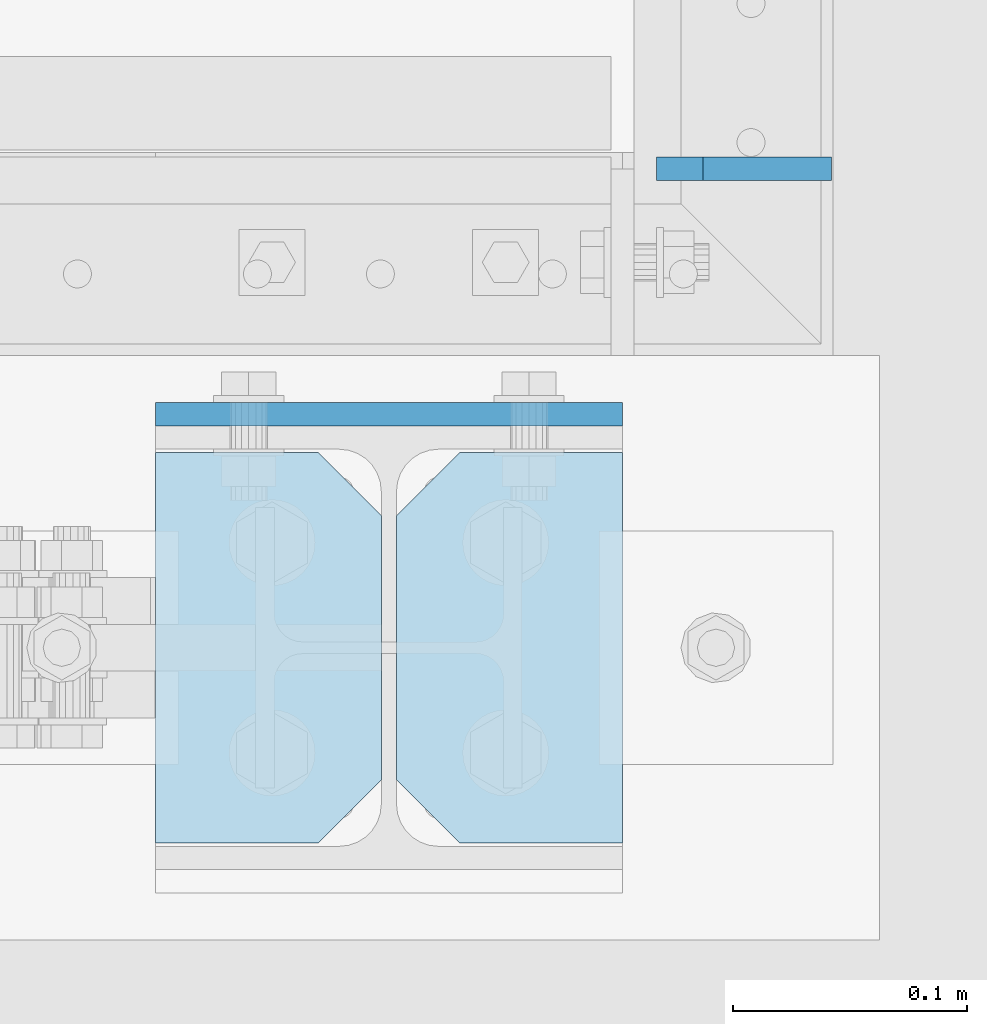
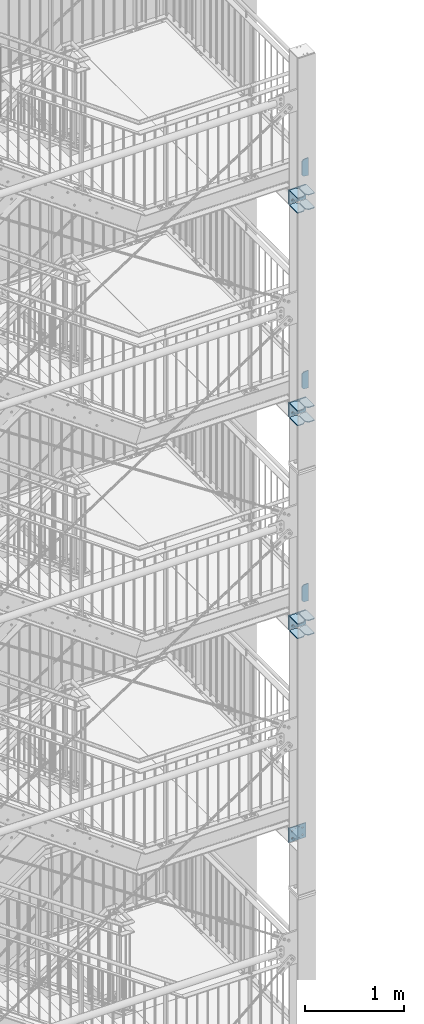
# One storey, part 197 of 825: 19 plates, 62 openings.
"""IFC2X3 building model written with IfcOpenShell, lengths in millimetres."""

import ifcopenshell
import ifcopenshell.guid

model = None  # the IFC model being written
_history = None  # IfcOwnerHistory: only IFC2X3 demands one
_inside = {}  # id of a spatial element -> (the spatial element, [elements in it])
_under = {}  # id of a project, library or spatial element -> (it, [spatial elements below it])
_declared = {}  # id of a project -> (the project, [libraries it declares])
_typed = {}  # id of a type object -> (the type object, [elements of that type])
_made_of = {}  # id of a material, layer set ... -> (it, [elements and type objects made of it])


def new_model(schema):
    """Start an empty IFC model of exactly this schema.

    Asked for "IFC4X3", IfcOpenShell would pick the latest addendum, in which some entities
    have other attributes; the version numbers below select the first issue.
    IFC2X3 requires an IfcOwnerHistory on every rooted entity: one is made here for all.
    """
    global model, _history
    if schema == "IFC4X3":
        model = ifcopenshell.file(schema_version=(4, 3, 0, 0))
    else:
        model = ifcopenshell.file(schema=schema)
    _inside.clear()
    _under.clear()
    _declared.clear()
    _typed.clear()
    _made_of.clear()
    _history = None
    if model.schema == "IFC2X3":
        org = make("IfcOrganization", Name="unknown")
        user = make(
            "IfcPersonAndOrganization",
            ThePerson=make("IfcPerson", FamilyName="unknown"),
            TheOrganization=org,
        )
        app = make(
            "IfcApplication",
            ApplicationDeveloper=org,
            Version="unknown",
            ApplicationFullName="unknown",
            ApplicationIdentifier="unknown",
        )
        _history = make(
            "IfcOwnerHistory",
            OwningUser=user,
            OwningApplication=app,
            ChangeAction="ADDED",
            CreationDate=0,
        )
    return model


def make(cls, **values):
    """One entity of the class cls with the attributes given. An attribute that is None is left unset."""
    return model.create_entity(
        cls, **{name: value for name, value in values.items() if value is not None}
    )


def entity(cls, *values):
    """Any entity or typed value of the class cls, its attributes in the order of the schema. None: left unset."""
    e = model.create_entity(cls)
    for i, value in enumerate(values):
        if value is not None:
            e[i] = value
    return e


def rooted(cls, **values):
    """An entity with a GlobalId (a new one), such as an element, a storey or a relation."""
    return make(cls, GlobalId=ifcopenshell.guid.new(), OwnerHistory=_history, **values)


def si_unit(unit_type, name, prefix=None):
    """IfcSIUnit, for example si_unit("LENGTHUNIT", "METRE", prefix="MILLI")."""
    return make("IfcSIUnit", UnitType=unit_type, Prefix=prefix, Name=name)


def converted_unit(unit_type, name, factor, base, dimensions=None, offset=None):
    """IfcConversionBasedUnit, such as the inch: factor (a typed value) times the base unit."""
    return make(
        "IfcConversionBasedUnit"
        if offset is None
        else "IfcConversionBasedUnitWithOffset",
        ConversionOffset=offset,
        Dimensions=None
        if dimensions is None
        else entity("IfcDimensionalExponents", *dimensions),
        UnitType=unit_type,
        Name=name,
        ConversionFactor=make(
            "IfcMeasureWithUnit", ValueComponent=factor, UnitComponent=base
        ),
    )


def assignment(units):
    """IfcUnitAssignment: the units of a project."""
    return None if units is None else make("IfcUnitAssignment", Units=units)


def point(xyz):
    """IfcCartesianPoint."""
    return None if xyz is None else make("IfcCartesianPoint", Coordinates=xyz)


def direction(xyz):
    """IfcDirection."""
    return None if xyz is None else make("IfcDirection", DirectionRatios=xyz)


def frame(location, z_axis=None, x_axis=None):
    """IfcAxis2Placement3D, a coordinate frame: its origin and axes. An axis left out is left unset."""
    return make(
        "IfcAxis2Placement3D",
        Location=point(location),
        Axis=direction(z_axis),
        RefDirection=direction(x_axis),
    )


def frame_2d(location, x_axis=None):
    """IfcAxis2Placement2D, a coordinate frame in the plane: its origin and x axis."""
    return make(
        "IfcAxis2Placement2D", Location=point(location), RefDirection=direction(x_axis)
    )


def origin():
    """The frame at (0, 0, 0) with its axes left unset."""
    return frame((0.0, 0.0, 0.0))


def origin_with_axes():
    """The frame at (0, 0, 0) with the z axis (0, 0, 1) and the x axis (1, 0, 0) written out."""
    return frame((0.0, 0.0, 0.0), z_axis=(0.0, 0.0, 1.0), x_axis=(1.0, 0.0, 0.0))


def origin_2d_with_axis():
    """The frame at (0, 0) in the plane with the x axis (1, 0) written out."""
    return frame_2d((0.0, 0.0), x_axis=(1.0, 0.0))


def place(relative_to, where):
    """IfcLocalPlacement: puts the frame where relative to a parent placement (None: the world)."""
    return make(
        "IfcLocalPlacement", PlacementRelTo=relative_to, RelativePlacement=where
    )


def context(
    kind, dimensions, precision=None, world=None, true_north=None, identifier=None
):
    """IfcGeometricRepresentationContext, for example the 3D "Model" context."""
    return make(
        "IfcGeometricRepresentationContext",
        ContextIdentifier=identifier,
        ContextType=kind,
        CoordinateSpaceDimension=dimensions,
        Precision=precision,
        WorldCoordinateSystem=world,
        TrueNorth=true_north,
    )


def project(units=None, contexts=None):
    """IfcProject with its units and contexts."""
    return rooted(
        "IfcProject",
        Name="project",
        RepresentationContexts=contexts,
        UnitsInContext=assignment(units),
    )


def spatial(cls, under=None, at=None, **own):
    """A site, building, storey or space (cls), placed at a placement, below another one or the project."""
    s = rooted(cls, ObjectPlacement=at, **own)
    if under is not None:
        _under.setdefault(under.id(), (under, []))[1].append(s)
    return s


def polyline(points):
    """IfcPolyline through the points."""
    return make("IfcPolyline", Points=[point(p) for p in points])


def profile(cls, at=None, kind="AREA", **sizes):
    """A parametric profile (cls). Its sizes go by their IFC names, for example OverallWidth=200.0."""
    return make(cls, ProfileType=kind, Position=at, **sizes)


def circle(**sizes):
    """IfcCircleProfileDef."""
    return profile("IfcCircleProfileDef", **sizes)


def outline(outer, holes=None, kind="AREA"):
    """IfcArbitraryClosedProfileDef: a profile drawn as a closed curve; with holes, ...WithVoids."""
    if holes is None:
        return make("IfcArbitraryClosedProfileDef", ProfileType=kind, OuterCurve=outer)
    return make(
        "IfcArbitraryProfileDefWithVoids",
        ProfileType=kind,
        OuterCurve=outer,
        InnerCurves=holes,
    )


def extrude(swept, where, along, depth):
    """IfcExtrudedAreaSolid: the profile swept, set in the frame where, extruded along a direction by depth."""
    return make(
        "IfcExtrudedAreaSolid",
        SweptArea=swept,
        Position=where,
        ExtrudedDirection=direction(along),
        Depth=depth,
    )


def shape(context_of_items, identifier, shape_type, items):
    """IfcShapeRepresentation: the items that make up one representation, for example the "Body"."""
    return make(
        "IfcShapeRepresentation",
        ContextOfItems=context_of_items,
        RepresentationIdentifier=identifier,
        RepresentationType=shape_type,
        Items=items,
    )


def material(Name=None, Category=None):
    """IfcMaterial."""
    return make("IfcMaterial", Name=Name, Category=Category)


def layer(
    of_material, thickness, ventilated=None, Name=None, Category=None, Priority=None
):
    """IfcMaterialLayer: one layer of a wall or slab, of a material (None: an air gap)."""
    return make(
        "IfcMaterialLayer",
        Material=of_material,
        LayerThickness=thickness,
        IsVentilated=ventilated,
        Name=Name,
        Category=Category,
        Priority=Priority,
    )


def layer_set(layers, Name=None):
    """IfcMaterialLayerSet."""
    return make("IfcMaterialLayerSet", MaterialLayers=layers, LayerSetName=Name)


def made_of(thing, what):
    """Note that an element or type object is made of a material, layer set ...; save() writes the relation."""
    if what is not None:
        _made_of.setdefault(what.id(), (what, []))[1].append(thing)
    return thing


def element(
    cls,
    number,
    at=None,
    inside=None,
    cuts=None,
    type_object=None,
    material=None,
    context=None,
    identifier="Body",
    shape_type=None,
    held_by="IfcProductDefinitionShape",
    body=None,
    shapes=None,
    **own,
):
    """One element of the class cls, such as IfcWall. Its Tag is "e" and its number.

    at: its placement. inside: the storey or other place that contains it. cuts: it is an
    opening in that element (IfcRelVoidsElement). A single representation is given by context,
    identifier, shape_type and body (its items); several are given by shapes. held_by: the class
    of the entity that holds the representations. save() writes the other relations.
    """
    e = rooted(cls, Tag="e%d" % number, ObjectPlacement=at, **own)
    if body is not None:
        shapes = [shape(context, identifier, shape_type, body)]
    if shapes is not None:
        e.Representation = make(held_by, Representations=shapes)
    if inside is not None:
        _inside.setdefault(inside.id(), (inside, []))[1].append(e)
    if cuts is not None:
        rooted(
            "IfcRelVoidsElement", RelatingBuildingElement=cuts, RelatedOpeningElement=e
        )
    if type_object is not None:
        _typed.setdefault(type_object.id(), (type_object, []))[1].append(e)
    return made_of(e, material)


def aggregate(whole, parts):
    """IfcRelAggregates: a whole, such as a stair, and the parts it consists of."""
    return rooted("IfcRelAggregates", RelatingObject=whole, RelatedObjects=parts)


def save(model, path):
    """Write the relations noted so far, then the file.

    IfcRelAggregates (storeys below a building ...), IfcRelContainedInSpatialStructure (elements
    in a storey), IfcRelDefinesByType, IfcRelAssociatesMaterial and IfcRelDeclares: one each for
    every whole, place, type object, material and project.
    """
    for whole, parts in _under.values():
        aggregate(whole, parts)
    for where, things in _inside.values():
        rooted(
            "IfcRelContainedInSpatialStructure",
            RelatedElements=things,
            RelatingStructure=where,
        )
    for kind, things in _typed.values():
        rooted("IfcRelDefinesByType", RelatedObjects=things, RelatingType=kind)
    for what, things in _made_of.values():
        rooted("IfcRelAssociatesMaterial", RelatedObjects=things, RelatingMaterial=what)
    for by, libraries in _declared.values():
        rooted("IfcRelDeclares", RelatingContext=by, RelatedDefinitions=libraries)
    model.write(path)


model = new_model("IFC2X3")

# Units and contexts
model_context = context("Model", 3, precision=1e-09, world=origin_with_axes())
ifc_project = project(units=[si_unit("LENGTHUNIT", "METRE", prefix="MILLI"), si_unit("AREAUNIT", "SQUARE_METRE"), si_unit("VOLUMEUNIT", "CUBIC_METRE"), converted_unit("PLANEANGLEUNIT", "DEGREE", entity("IfcPlaneAngleMeasure", 0.01745329), si_unit("PLANEANGLEUNIT", "RADIAN"), dimensions=[0, 0, 0, 0, 0, 0, 0])], contexts=[model_context])

# Site, building, storey
site_placement = place(None, origin_with_axes())
site = spatial("IfcSite", under=ifc_project, at=site_placement, Name="Cnopf'sche Kinderklinik", CompositionType="ELEMENT")
building_placement = place(site_placement, origin_with_axes())
building = spatial("IfcBuilding", under=site, at=building_placement, Name="Struktur 1", CompositionType="ELEMENT")
storey_placement = place(building_placement, origin_with_axes())
storey = spatial("IfcBuildingStorey", under=building, at=storey_placement, Name="Default Storey", CompositionType="ELEMENT", Elevation=0.0)

# Plate, openings
ifc_material = material(Name="S235JR")
ifc_layer = layer(ifc_material, 10.0)
ifc_layer_set = layer_set([ifc_layer], Name="S235JR")
plate_1_placement = place(None, frame((8866.713402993, 4471.736971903, 16189.0000003), z_axis=(0.0, -1.0, 0.0), x_axis=(0.0, 0.0, -1.0)))
plate_1 = element("IfcPlate", 1, at=plate_1_placement, inside=storey, material=ifc_layer_set, Name="Endplate", ObjectType="Endplate", context=model_context, shape_type="SweptSolid", body=[
    extrude(outline(polyline([(-90.0, -100.0), (90.0, -100.0), (90.0, 100.0), (-90.0, 100.0), (-90.0, -100.0)])), origin_with_axes(), (0.0, 0.0, 1.0), 10.0),
])
opening_1_placement = place(plate_1_placement, frame((-67.0, -21.25, 10.5), z_axis=(0.0, 0.0, -1.0), x_axis=(1.0, 0.0, 0.0)))
element("IfcOpeningElement", 2, at=opening_1_placement, cuts=plate_1, ObjectType="Opening", context=model_context, shape_type="SweptSolid", body=[
    extrude(circle(Radius=6.001, at=origin_2d_with_axis()), origin(), (0.0, 0.0, 1.0), 11.0),
])
opening_2_placement = place(plate_1_placement, frame((67.0, -21.25, 10.5), z_axis=(0.0, 0.0, -1.0), x_axis=(1.0, 0.0, 0.0)))
element("IfcOpeningElement", 3, at=opening_2_placement, cuts=plate_1, ObjectType="Opening", context=model_context, shape_type="SweptSolid", body=[
    extrude(circle(Radius=6.001, at=origin_2d_with_axis()), origin(), (0.0, 0.0, 1.0), 11.0),
])
opening_3_placement = place(plate_1_placement, frame((67.0, 21.25, 10.5), z_axis=(0.0, 0.0, -1.0), x_axis=(1.0, 0.0, 0.0)))
element("IfcOpeningElement", 4, at=opening_3_placement, cuts=plate_1, ObjectType="Opening", context=model_context, shape_type="SweptSolid", body=[
    extrude(circle(Radius=6.001, at=origin_2d_with_axis()), origin(), (0.0, 0.0, 1.0), 11.0),
])
opening_4_placement = place(plate_1_placement, frame((-67.0, 21.25, 10.5), z_axis=(0.0, 0.0, -1.0), x_axis=(1.0, 0.0, 0.0)))
element("IfcOpeningElement", 5, at=opening_4_placement, cuts=plate_1, ObjectType="Opening", context=model_context, shape_type="SweptSolid", body=[
    extrude(circle(Radius=6.001, at=origin_2d_with_axis()), origin(), (0.0, 0.0, 1.0), 11.0),
])
opening_5_placement = place(plate_1_placement, frame((-45.0, 60.0, 10.5), z_axis=(0.0, 0.0, -1.0), x_axis=(0.0, 1.0, 0.0)))
element("IfcOpeningElement", 6, at=opening_5_placement, cuts=plate_1, ObjectType="Opening", context=model_context, shape_type="SweptSolid", body=[
    extrude(circle(Radius=9.001, at=origin_2d_with_axis()), origin(), (0.0, 0.0, 1.0), 11.0),
])
opening_6_placement = place(plate_1_placement, frame((-45.0, -60.0, 10.5), z_axis=(0.0, 0.0, -1.0), x_axis=(0.0, -1.0, 0.0)))
element("IfcOpeningElement", 7, at=opening_6_placement, cuts=plate_1, ObjectType="Opening", context=model_context, shape_type="SweptSolid", body=[
    extrude(circle(Radius=9.001, at=origin_2d_with_axis()), origin(), (0.0, 0.0, 1.0), 11.0),
])
opening_7_placement = place(plate_1_placement, frame((45.0, 60.0, 10.5), z_axis=(0.0, 0.0, -1.0), x_axis=(0.0, 1.0, 0.0)))
element("IfcOpeningElement", 8, at=opening_7_placement, cuts=plate_1, ObjectType="Opening", context=model_context, shape_type="SweptSolid", body=[
    extrude(circle(Radius=9.001, at=origin_2d_with_axis()), origin(), (0.0, 0.0, 1.0), 11.0),
])
opening_8_placement = place(plate_1_placement, frame((45.0, -60.0, 10.5), z_axis=(0.0, 0.0, -1.0), x_axis=(0.0, -1.0, 0.0)))
element("IfcOpeningElement", 9, at=opening_8_placement, cuts=plate_1, ObjectType="Opening", context=model_context, shape_type="SweptSolid", body=[
    extrude(circle(Radius=9.001, at=origin_2d_with_axis()), origin(), (0.0, 0.0, 1.0), 11.0),
])

plate_2_placement = place(None, frame((8863.463402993, 4450.236971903, 16274.0000003), z_axis=(0.0, 0.0, 1.0), x_axis=(-1.0, 0.0, 0.0)))
plate_2 = element("IfcPlate", 10, at=plate_2_placement, inside=storey, material=ifc_layer_set, Name="Stiffener#1", ObjectType="Stiffener#1", context=model_context, shape_type="SweptSolid", body=[
    extrude(outline(polyline([(0.0, 0.0), (96.75, 0.0), (96.75, 167.0), (0.0, 167.0), (0.0, 0.0)])), origin_with_axes(), (0.0, 0.0, 1.0), 10.0),
])
opening_9_placement = place(plate_2_placement, frame((0.0, 0.0, -0.01), z_axis=(0.0, 0.0, 1.0), x_axis=(1.0, 0.0, 0.0)))
element("IfcOpeningElement", 11, at=opening_9_placement, cuts=plate_2, ObjectType="Opening", context=model_context, shape_type="SweptSolid", body=[
    extrude(outline(polyline([(0.0, 167.0), (0.0, 140.0), (27.0, 167.0), (0.0, 167.0)])), origin(), (0.0, 0.0, 1.0), 10.02),
])
opening_10_placement = place(plate_2_placement, frame((0.0, 0.0, -0.01), z_axis=(0.0, 0.0, 1.0), x_axis=(1.0, 0.0, 0.0)))
element("IfcOpeningElement", 12, at=opening_10_placement, cuts=plate_2, ObjectType="Opening", context=model_context, shape_type="SweptSolid", body=[
    extrude(outline(polyline([(0.0, 0.0), (27.0, 0.0), (0.0, 27.0), (0.0, 0.0)])), origin(), (0.0, 0.0, 1.0), 10.02),
])

plate_3_placement = place(None, frame((8966.713402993, 4450.236971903, 16274.0000003), z_axis=(0.0, 0.0, 1.0), x_axis=(-1.0, 0.0, 0.0)))
plate_3 = element("IfcPlate", 13, at=plate_3_placement, inside=storey, material=ifc_layer_set, Name="Stiffener#2", ObjectType="Stiffener#2", context=model_context, shape_type="SweptSolid", body=[
    extrude(outline(polyline([(0.0, 0.0), (96.75, 0.0), (96.75, 167.0), (0.0, 167.0), (0.0, 0.0)])), origin_with_axes(), (0.0, 0.0, 1.0), 10.0),
])
opening_11_placement = place(plate_3_placement, frame((0.0, 0.0, -0.01), z_axis=(0.0, 0.0, 1.0), x_axis=(1.0, 0.0, 0.0)))
element("IfcOpeningElement", 14, at=opening_11_placement, cuts=plate_3, ObjectType="Opening", context=model_context, shape_type="SweptSolid", body=[
    extrude(outline(polyline([(96.75, 167.0), (69.75, 167.0), (96.75, 140.0), (96.75, 167.0)])), origin(), (0.0, 0.0, 1.0), 10.02),
])
opening_12_placement = place(plate_3_placement, frame((0.0, 0.0, -0.01), z_axis=(0.0, 0.0, 1.0), x_axis=(1.0, 0.0, 0.0)))
element("IfcOpeningElement", 15, at=opening_12_placement, cuts=plate_3, ObjectType="Opening", context=model_context, shape_type="SweptSolid", body=[
    extrude(outline(polyline([(96.75, 0.0), (96.75, 27.0), (69.75, 0.0), (96.75, 0.0)])), origin(), (0.0, 0.0, 1.0), 10.02),
])

plate_4_placement = place(None, frame((8766.713402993, 4450.236971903, 16104.0000003), z_axis=(0.0, 0.0, -1.0), x_axis=(1.0, 0.0, 0.0)))
plate_4 = element("IfcPlate", 16, at=plate_4_placement, inside=storey, material=ifc_layer_set, Name="Stiffener#3", ObjectType="Stiffener#3", context=model_context, shape_type="SweptSolid", body=[
    extrude(outline(polyline([(0.0, 0.0), (96.75, 0.0), (96.75, 167.0), (0.0, 167.0), (0.0, 0.0)])), origin_with_axes(), (0.0, 0.0, 1.0), 10.0),
])
opening_13_placement = place(plate_4_placement, frame((0.0, 0.0, -0.01), z_axis=(0.0, 0.0, 1.0), x_axis=(1.0, 0.0, 0.0)))
element("IfcOpeningElement", 17, at=opening_13_placement, cuts=plate_4, ObjectType="Opening", context=model_context, shape_type="SweptSolid", body=[
    extrude(outline(polyline([(96.75, 167.0), (69.75, 167.0), (96.75, 140.0), (96.75, 167.0)])), origin(), (0.0, 0.0, 1.0), 10.02),
])
opening_14_placement = place(plate_4_placement, frame((0.0, 0.0, -0.01), z_axis=(0.0, 0.0, 1.0), x_axis=(1.0, 0.0, 0.0)))
element("IfcOpeningElement", 18, at=opening_14_placement, cuts=plate_4, ObjectType="Opening", context=model_context, shape_type="SweptSolid", body=[
    extrude(outline(polyline([(96.75, 0.0), (96.75, 27.0), (69.75, 0.0), (96.75, 0.0)])), origin(), (0.0, 0.0, 1.0), 10.02),
])

plate_5_placement = place(None, frame((8869.963402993, 4450.236971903, 16104.0000003), z_axis=(0.0, 0.0, -1.0), x_axis=(1.0, 0.0, 0.0)))
plate_5 = element("IfcPlate", 19, at=plate_5_placement, inside=storey, material=ifc_layer_set, Name="Stiffener#4", ObjectType="Stiffener#4", context=model_context, shape_type="SweptSolid", body=[
    extrude(outline(polyline([(0.0, 0.0), (96.75, 0.0), (96.75, 167.0), (0.0, 167.0), (0.0, 0.0)])), origin_with_axes(), (0.0, 0.0, 1.0), 10.0),
])
opening_15_placement = place(plate_5_placement, frame((0.0, 0.0, -0.01), z_axis=(0.0, 0.0, 1.0), x_axis=(1.0, 0.0, 0.0)))
element("IfcOpeningElement", 20, at=opening_15_placement, cuts=plate_5, ObjectType="Opening", context=model_context, shape_type="SweptSolid", body=[
    extrude(outline(polyline([(0.0, 167.0), (0.0, 140.0), (27.0, 167.0), (0.0, 167.0)])), origin(), (0.0, 0.0, 1.0), 10.02),
])
opening_16_placement = place(plate_5_placement, frame((0.0, 0.0, -0.01), z_axis=(0.0, 0.0, 1.0), x_axis=(1.0, 0.0, 0.0)))
element("IfcOpeningElement", 21, at=opening_16_placement, cuts=plate_5, ObjectType="Opening", context=model_context, shape_type="SweptSolid", body=[
    extrude(outline(polyline([(0.0, 0.0), (27.0, 0.0), (0.0, 27.0), (0.0, 0.0)])), origin(), (0.0, 0.0, 1.0), 10.02),
])

plate_6_placement = place(None, frame((8981.213402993, 4566.736971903, 16506.855162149), z_axis=(0.0, 1.0, 0.0), x_axis=(0.996815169, 0.0, 0.079746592)))
plate_6 = element("IfcPlate", 22, at=plate_6_placement, inside=storey, material=ifc_layer_set, Name="Stiffener#1", ObjectType="Stiffener#1", context=model_context, shape_type="SweptSolid", body=[
    extrude(outline(polyline([(0.0, 0.0), (75.239625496, 0.0), (57.877952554, 217.017159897), (-16.404697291, 205.05517107), (0.0, 0.0)])), origin_with_axes(), (0.0, 0.0, 1.0), 10.0),
])
opening_17_placement = place(plate_6_placement, frame((0.0, 0.0, -0.01), z_axis=(0.0, 0.0, 1.0), x_axis=(1.0, 0.0, 0.0)))
element("IfcOpeningElement", 23, at=opening_17_placement, cuts=plate_6, ObjectType="Opening", context=model_context, shape_type="SweptSolid", body=[
    extrude(outline(polyline([(-16.404697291, 205.05517107), (-14.809765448, 185.118867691), (3.34092195, 208.23487558), (-16.404697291, 205.05517107)])), origin(), (0.0, 0.0, 1.0), 10.02),
])
opening_18_placement = place(plate_6_placement, frame((0.0, 0.0, -0.01), z_axis=(0.0, 0.0, 1.0), x_axis=(1.0, 0.0, 0.0)))
element("IfcOpeningElement", 24, at=opening_18_placement, cuts=plate_6, ObjectType="Opening", context=model_context, shape_type="SweptSolid", body=[
    extrude(outline(polyline([(0.0, 0.0), (20.0, 0.0), (-1.594931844, 19.936303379), (0.0, 0.0)])), origin(), (0.0, 0.0, 1.0), 10.02),
])

plate_7_placement = place(None, frame((8866.713402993, 4471.736971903, 13561.5000001), z_axis=(0.0, -1.0, 0.0), x_axis=(0.0, 0.0, -1.0)))
plate_7 = element("IfcPlate", 25, at=plate_7_placement, inside=storey, material=ifc_layer_set, Name="Endplate", ObjectType="Endplate", context=model_context, shape_type="SweptSolid", body=[
    extrude(outline(polyline([(-90.0, -100.0), (90.0, -100.0), (90.0, 100.0), (-90.0, 100.0), (-90.0, -100.0)])), origin_with_axes(), (0.0, 0.0, 1.0), 10.0),
])
opening_19_placement = place(plate_7_placement, frame((-67.0, -21.25, 10.5), z_axis=(0.0, 0.0, -1.0), x_axis=(1.0, 0.0, 0.0)))
element("IfcOpeningElement", 26, at=opening_19_placement, cuts=plate_7, ObjectType="Opening", context=model_context, shape_type="SweptSolid", body=[
    extrude(circle(Radius=6.001, at=origin_2d_with_axis()), origin(), (0.0, 0.0, 1.0), 11.0),
])
opening_20_placement = place(plate_7_placement, frame((67.0, -21.25, 10.5), z_axis=(0.0, 0.0, -1.0), x_axis=(1.0, 0.0, 0.0)))
element("IfcOpeningElement", 27, at=opening_20_placement, cuts=plate_7, ObjectType="Opening", context=model_context, shape_type="SweptSolid", body=[
    extrude(circle(Radius=6.001, at=origin_2d_with_axis()), origin(), (0.0, 0.0, 1.0), 11.0),
])
opening_21_placement = place(plate_7_placement, frame((67.0, 21.25, 10.5), z_axis=(0.0, 0.0, -1.0), x_axis=(1.0, 0.0, 0.0)))
element("IfcOpeningElement", 28, at=opening_21_placement, cuts=plate_7, ObjectType="Opening", context=model_context, shape_type="SweptSolid", body=[
    extrude(circle(Radius=6.001, at=origin_2d_with_axis()), origin(), (0.0, 0.0, 1.0), 11.0),
])
opening_22_placement = place(plate_7_placement, frame((-67.0, 21.25, 10.5), z_axis=(0.0, 0.0, -1.0), x_axis=(1.0, 0.0, 0.0)))
element("IfcOpeningElement", 29, at=opening_22_placement, cuts=plate_7, ObjectType="Opening", context=model_context, shape_type="SweptSolid", body=[
    extrude(circle(Radius=6.001, at=origin_2d_with_axis()), origin(), (0.0, 0.0, 1.0), 11.0),
])
opening_23_placement = place(plate_7_placement, frame((45.0, -60.0, 10.5), z_axis=(0.0, 0.0, -1.0), x_axis=(0.0, -1.0, 0.0)))
element("IfcOpeningElement", 30, at=opening_23_placement, cuts=plate_7, ObjectType="Opening", context=model_context, shape_type="SweptSolid", body=[
    extrude(circle(Radius=9.001, at=origin_2d_with_axis()), origin(), (0.0, 0.0, 1.0), 11.0),
])
opening_24_placement = place(plate_7_placement, frame((45.0, 60.0, 10.5), z_axis=(0.0, 0.0, -1.0), x_axis=(0.0, 1.0, 0.0)))
element("IfcOpeningElement", 31, at=opening_24_placement, cuts=plate_7, ObjectType="Opening", context=model_context, shape_type="SweptSolid", body=[
    extrude(circle(Radius=9.001, at=origin_2d_with_axis()), origin(), (0.0, 0.0, 1.0), 11.0),
])
opening_25_placement = place(plate_7_placement, frame((-45.0, -60.0, 10.5), z_axis=(0.0, 0.0, -1.0), x_axis=(0.0, -1.0, 0.0)))
element("IfcOpeningElement", 32, at=opening_25_placement, cuts=plate_7, ObjectType="Opening", context=model_context, shape_type="SweptSolid", body=[
    extrude(circle(Radius=9.001, at=origin_2d_with_axis()), origin(), (0.0, 0.0, 1.0), 11.0),
])
opening_26_placement = place(plate_7_placement, frame((-45.0, 60.0, 10.5), z_axis=(0.0, 0.0, -1.0), x_axis=(0.0, 1.0, 0.0)))
element("IfcOpeningElement", 33, at=opening_26_placement, cuts=plate_7, ObjectType="Opening", context=model_context, shape_type="SweptSolid", body=[
    extrude(circle(Radius=9.001, at=origin_2d_with_axis()), origin(), (0.0, 0.0, 1.0), 11.0),
])

plate_8_placement = place(None, frame((8863.463402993, 4450.236971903, 13646.5000001), z_axis=(0.0, 0.0, 1.0), x_axis=(-1.0, 0.0, 0.0)))
plate_8 = element("IfcPlate", 34, at=plate_8_placement, inside=storey, material=ifc_layer_set, Name="Stiffener#1", ObjectType="Stiffener#1", context=model_context, shape_type="SweptSolid", body=[
    extrude(outline(polyline([(0.0, 0.0), (96.75, 0.0), (96.75, 167.0), (0.0, 167.0), (0.0, 0.0)])), origin_with_axes(), (0.0, 0.0, 1.0), 10.0),
])
opening_27_placement = place(plate_8_placement, frame((0.0, 0.0, -0.01), z_axis=(0.0, 0.0, 1.0), x_axis=(1.0, 0.0, 0.0)))
element("IfcOpeningElement", 35, at=opening_27_placement, cuts=plate_8, ObjectType="Opening", context=model_context, shape_type="SweptSolid", body=[
    extrude(outline(polyline([(0.0, 167.0), (0.0, 140.0), (27.0, 167.0), (0.0, 167.0)])), origin(), (0.0, 0.0, 1.0), 10.02),
])
opening_28_placement = place(plate_8_placement, frame((0.0, 0.0, -0.01), z_axis=(0.0, 0.0, 1.0), x_axis=(1.0, 0.0, 0.0)))
element("IfcOpeningElement", 36, at=opening_28_placement, cuts=plate_8, ObjectType="Opening", context=model_context, shape_type="SweptSolid", body=[
    extrude(outline(polyline([(0.0, 0.0), (27.0, 0.0), (0.0, 27.0), (0.0, 0.0)])), origin(), (0.0, 0.0, 1.0), 10.02),
])

plate_9_placement = place(None, frame((8966.713402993, 4450.236971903, 13646.5000001), z_axis=(0.0, 0.0, 1.0), x_axis=(-1.0, 0.0, 0.0)))
plate_9 = element("IfcPlate", 37, at=plate_9_placement, inside=storey, material=ifc_layer_set, Name="Stiffener#2", ObjectType="Stiffener#2", context=model_context, shape_type="SweptSolid", body=[
    extrude(outline(polyline([(0.0, 0.0), (96.75, 0.0), (96.75, 167.0), (0.0, 167.0), (0.0, 0.0)])), origin_with_axes(), (0.0, 0.0, 1.0), 10.0),
])
opening_29_placement = place(plate_9_placement, frame((0.0, 0.0, -0.01), z_axis=(0.0, 0.0, 1.0), x_axis=(1.0, 0.0, 0.0)))
element("IfcOpeningElement", 38, at=opening_29_placement, cuts=plate_9, ObjectType="Opening", context=model_context, shape_type="SweptSolid", body=[
    extrude(outline(polyline([(96.75, 167.0), (69.75, 167.0), (96.75, 140.0), (96.75, 167.0)])), origin(), (0.0, 0.0, 1.0), 10.02),
])
opening_30_placement = place(plate_9_placement, frame((0.0, 0.0, -0.01), z_axis=(0.0, 0.0, 1.0), x_axis=(1.0, 0.0, 0.0)))
element("IfcOpeningElement", 39, at=opening_30_placement, cuts=plate_9, ObjectType="Opening", context=model_context, shape_type="SweptSolid", body=[
    extrude(outline(polyline([(96.75, 0.0), (96.75, 27.0), (69.75, 0.0), (96.75, 0.0)])), origin(), (0.0, 0.0, 1.0), 10.02),
])

plate_10_placement = place(None, frame((8766.713402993, 4450.236971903, 13476.5000001), z_axis=(0.0, 0.0, -1.0), x_axis=(1.0, 0.0, 0.0)))
plate_10 = element("IfcPlate", 40, at=plate_10_placement, inside=storey, material=ifc_layer_set, Name="Stiffener#3", ObjectType="Stiffener#3", context=model_context, shape_type="SweptSolid", body=[
    extrude(outline(polyline([(0.0, 0.0), (96.75, 0.0), (96.75, 167.0), (0.0, 167.0), (0.0, 0.0)])), origin_with_axes(), (0.0, 0.0, 1.0), 10.0),
])
opening_31_placement = place(plate_10_placement, frame((0.0, 0.0, -0.01), z_axis=(0.0, 0.0, 1.0), x_axis=(1.0, 0.0, 0.0)))
element("IfcOpeningElement", 41, at=opening_31_placement, cuts=plate_10, ObjectType="Opening", context=model_context, shape_type="SweptSolid", body=[
    extrude(outline(polyline([(96.75, 167.0), (69.75, 167.0), (96.75, 140.0), (96.75, 167.0)])), origin(), (0.0, 0.0, 1.0), 10.02),
])
opening_32_placement = place(plate_10_placement, frame((0.0, 0.0, -0.01), z_axis=(0.0, 0.0, 1.0), x_axis=(1.0, 0.0, 0.0)))
element("IfcOpeningElement", 42, at=opening_32_placement, cuts=plate_10, ObjectType="Opening", context=model_context, shape_type="SweptSolid", body=[
    extrude(outline(polyline([(96.75, 0.0), (96.75, 27.0), (69.75, 0.0), (96.75, 0.0)])), origin(), (0.0, 0.0, 1.0), 10.02),
])

plate_11_placement = place(None, frame((8869.963402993, 4450.236971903, 13476.5000001), z_axis=(0.0, 0.0, -1.0), x_axis=(1.0, 0.0, 0.0)))
plate_11 = element("IfcPlate", 43, at=plate_11_placement, inside=storey, material=ifc_layer_set, Name="Stiffener#4", ObjectType="Stiffener#4", context=model_context, shape_type="SweptSolid", body=[
    extrude(outline(polyline([(0.0, 0.0), (96.75, 0.0), (96.75, 167.0), (0.0, 167.0), (0.0, 0.0)])), origin_with_axes(), (0.0, 0.0, 1.0), 10.0),
])
opening_33_placement = place(plate_11_placement, frame((0.0, 0.0, -0.01), z_axis=(0.0, 0.0, 1.0), x_axis=(1.0, 0.0, 0.0)))
element("IfcOpeningElement", 44, at=opening_33_placement, cuts=plate_11, ObjectType="Opening", context=model_context, shape_type="SweptSolid", body=[
    extrude(outline(polyline([(0.0, 167.0), (0.0, 140.0), (27.0, 167.0), (0.0, 167.0)])), origin(), (0.0, 0.0, 1.0), 10.02),
])
opening_34_placement = place(plate_11_placement, frame((0.0, 0.0, -0.01), z_axis=(0.0, 0.0, 1.0), x_axis=(1.0, 0.0, 0.0)))
element("IfcOpeningElement", 45, at=opening_34_placement, cuts=plate_11, ObjectType="Opening", context=model_context, shape_type="SweptSolid", body=[
    extrude(outline(polyline([(0.0, 0.0), (27.0, 0.0), (0.0, 27.0), (0.0, 0.0)])), origin(), (0.0, 0.0, 1.0), 10.02),
])

plate_12_placement = place(None, frame((8981.213402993, 4566.736971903, 13879.355161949), z_axis=(0.0, 1.0, 0.0), x_axis=(0.996815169, 0.0, 0.079746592)))
plate_12 = element("IfcPlate", 46, at=plate_12_placement, inside=storey, material=ifc_layer_set, Name="Stiffener#1", ObjectType="Stiffener#1", context=model_context, shape_type="SweptSolid", body=[
    extrude(outline(polyline([(0.0, 0.0), (75.239625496, 0.0), (57.877952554, 217.017159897), (-16.404697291, 205.05517107), (0.0, 0.0)])), origin_with_axes(), (0.0, 0.0, 1.0), 10.0),
])
opening_35_placement = place(plate_12_placement, frame((0.0, 0.0, -0.01), z_axis=(0.0, 0.0, 1.0), x_axis=(1.0, 0.0, 0.0)))
element("IfcOpeningElement", 47, at=opening_35_placement, cuts=plate_12, ObjectType="Opening", context=model_context, shape_type="SweptSolid", body=[
    extrude(outline(polyline([(-16.404697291, 205.05517107), (-14.809765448, 185.118867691), (3.34092195, 208.23487558), (-16.404697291, 205.05517107)])), origin(), (0.0, 0.0, 1.0), 10.02),
])
opening_36_placement = place(plate_12_placement, frame((0.0, 0.0, -0.01), z_axis=(0.0, 0.0, 1.0), x_axis=(1.0, 0.0, 0.0)))
element("IfcOpeningElement", 48, at=opening_36_placement, cuts=plate_12, ObjectType="Opening", context=model_context, shape_type="SweptSolid", body=[
    extrude(outline(polyline([(0.0, 0.0), (20.0, 0.0), (-1.594931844, 19.936303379), (0.0, 0.0)])), origin(), (0.0, 0.0, 1.0), 10.02),
])

plate_13_placement = place(None, frame((8866.713402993, 4471.736971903, 10930.5000003), z_axis=(0.0, -1.0, 0.0), x_axis=(0.0, 0.0, -1.0)))
plate_13 = element("IfcPlate", 49, at=plate_13_placement, inside=storey, material=ifc_layer_set, Name="Endplate", ObjectType="Endplate", context=model_context, shape_type="SweptSolid", body=[
    extrude(outline(polyline([(-90.0, -100.0), (90.0, -100.0), (90.0, 100.0), (-90.0, 100.0), (-90.0, -100.0)])), origin_with_axes(), (0.0, 0.0, 1.0), 10.0),
])
opening_37_placement = place(plate_13_placement, frame((-67.0, -21.25, 10.5), z_axis=(0.0, 0.0, -1.0), x_axis=(1.0, 0.0, 0.0)))
element("IfcOpeningElement", 50, at=opening_37_placement, cuts=plate_13, ObjectType="Opening", context=model_context, shape_type="SweptSolid", body=[
    extrude(circle(Radius=6.001, at=origin_2d_with_axis()), origin(), (0.0, 0.0, 1.0), 11.0),
])
opening_38_placement = place(plate_13_placement, frame((67.0, -21.25, 10.5), z_axis=(0.0, 0.0, -1.0), x_axis=(1.0, 0.0, 0.0)))
element("IfcOpeningElement", 51, at=opening_38_placement, cuts=plate_13, ObjectType="Opening", context=model_context, shape_type="SweptSolid", body=[
    extrude(circle(Radius=6.001, at=origin_2d_with_axis()), origin(), (0.0, 0.0, 1.0), 11.0),
])
opening_39_placement = place(plate_13_placement, frame((67.0, 21.25, 10.5), z_axis=(0.0, 0.0, -1.0), x_axis=(1.0, 0.0, 0.0)))
element("IfcOpeningElement", 52, at=opening_39_placement, cuts=plate_13, ObjectType="Opening", context=model_context, shape_type="SweptSolid", body=[
    extrude(circle(Radius=6.001, at=origin_2d_with_axis()), origin(), (0.0, 0.0, 1.0), 11.0),
])
opening_40_placement = place(plate_13_placement, frame((-67.0, 21.25, 10.5), z_axis=(0.0, 0.0, -1.0), x_axis=(1.0, 0.0, 0.0)))
element("IfcOpeningElement", 53, at=opening_40_placement, cuts=plate_13, ObjectType="Opening", context=model_context, shape_type="SweptSolid", body=[
    extrude(circle(Radius=6.001, at=origin_2d_with_axis()), origin(), (0.0, 0.0, 1.0), 11.0),
])
opening_41_placement = place(plate_13_placement, frame((-45.0, 60.0, 10.5), z_axis=(0.0, 0.0, -1.0), x_axis=(0.0, 1.0, 0.0)))
element("IfcOpeningElement", 54, at=opening_41_placement, cuts=plate_13, ObjectType="Opening", context=model_context, shape_type="SweptSolid", body=[
    extrude(circle(Radius=9.001, at=origin_2d_with_axis()), origin(), (0.0, 0.0, 1.0), 11.0),
])
opening_42_placement = place(plate_13_placement, frame((45.0, -60.0, 10.5), z_axis=(0.0, 0.0, -1.0), x_axis=(0.0, -1.0, 0.0)))
element("IfcOpeningElement", 55, at=opening_42_placement, cuts=plate_13, ObjectType="Opening", context=model_context, shape_type="SweptSolid", body=[
    extrude(circle(Radius=9.001, at=origin_2d_with_axis()), origin(), (0.0, 0.0, 1.0), 11.0),
])
opening_43_placement = place(plate_13_placement, frame((45.0, 60.0, 10.5), z_axis=(0.0, 0.0, -1.0), x_axis=(0.0, 1.0, 0.0)))
element("IfcOpeningElement", 56, at=opening_43_placement, cuts=plate_13, ObjectType="Opening", context=model_context, shape_type="SweptSolid", body=[
    extrude(circle(Radius=9.001, at=origin_2d_with_axis()), origin(), (0.0, 0.0, 1.0), 11.0),
])
opening_44_placement = place(plate_13_placement, frame((-45.0, -60.0, 10.5), z_axis=(0.0, 0.0, -1.0), x_axis=(0.0, -1.0, 0.0)))
element("IfcOpeningElement", 57, at=opening_44_placement, cuts=plate_13, ObjectType="Opening", context=model_context, shape_type="SweptSolid", body=[
    extrude(circle(Radius=9.001, at=origin_2d_with_axis()), origin(), (0.0, 0.0, 1.0), 11.0),
])

plate_14_placement = place(None, frame((8863.463402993, 4450.236971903, 11015.5000003), z_axis=(0.0, 0.0, 1.0), x_axis=(-1.0, 0.0, 0.0)))
plate_14 = element("IfcPlate", 58, at=plate_14_placement, inside=storey, material=ifc_layer_set, Name="Stiffener#1", ObjectType="Stiffener#1", context=model_context, shape_type="SweptSolid", body=[
    extrude(outline(polyline([(0.0, 0.0), (96.75, 0.0), (96.75, 167.0), (0.0, 167.0), (0.0, 0.0)])), origin_with_axes(), (0.0, 0.0, 1.0), 10.0),
])
opening_45_placement = place(plate_14_placement, frame((0.0, 0.0, -0.01), z_axis=(0.0, 0.0, 1.0), x_axis=(1.0, 0.0, 0.0)))
element("IfcOpeningElement", 59, at=opening_45_placement, cuts=plate_14, ObjectType="Opening", context=model_context, shape_type="SweptSolid", body=[
    extrude(outline(polyline([(0.0, 167.0), (0.0, 140.0), (27.0, 167.0), (0.0, 167.0)])), origin(), (0.0, 0.0, 1.0), 10.02),
])
opening_46_placement = place(plate_14_placement, frame((0.0, 0.0, -0.01), z_axis=(0.0, 0.0, 1.0), x_axis=(1.0, 0.0, 0.0)))
element("IfcOpeningElement", 60, at=opening_46_placement, cuts=plate_14, ObjectType="Opening", context=model_context, shape_type="SweptSolid", body=[
    extrude(outline(polyline([(0.0, 0.0), (27.0, 0.0), (0.0, 27.0), (0.0, 0.0)])), origin(), (0.0, 0.0, 1.0), 10.02),
])

plate_15_placement = place(None, frame((8966.713402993, 4450.236971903, 11015.5000003), z_axis=(0.0, 0.0, 1.0), x_axis=(-1.0, 0.0, 0.0)))
plate_15 = element("IfcPlate", 61, at=plate_15_placement, inside=storey, material=ifc_layer_set, Name="Stiffener#2", ObjectType="Stiffener#2", context=model_context, shape_type="SweptSolid", body=[
    extrude(outline(polyline([(0.0, 0.0), (96.75, 0.0), (96.75, 167.0), (0.0, 167.0), (0.0, 0.0)])), origin_with_axes(), (0.0, 0.0, 1.0), 10.0),
])
opening_47_placement = place(plate_15_placement, frame((0.0, 0.0, -0.01), z_axis=(0.0, 0.0, 1.0), x_axis=(1.0, 0.0, 0.0)))
element("IfcOpeningElement", 62, at=opening_47_placement, cuts=plate_15, ObjectType="Opening", context=model_context, shape_type="SweptSolid", body=[
    extrude(outline(polyline([(96.75, 167.0), (69.75, 167.0), (96.75, 140.0), (96.75, 167.0)])), origin(), (0.0, 0.0, 1.0), 10.02),
])
opening_48_placement = place(plate_15_placement, frame((0.0, 0.0, -0.01), z_axis=(0.0, 0.0, 1.0), x_axis=(1.0, 0.0, 0.0)))
element("IfcOpeningElement", 63, at=opening_48_placement, cuts=plate_15, ObjectType="Opening", context=model_context, shape_type="SweptSolid", body=[
    extrude(outline(polyline([(96.75, 0.0), (96.75, 27.0), (69.75, 0.0), (96.75, 0.0)])), origin(), (0.0, 0.0, 1.0), 10.02),
])

plate_16_placement = place(None, frame((8766.713402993, 4450.236971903, 10845.5000003), z_axis=(0.0, 0.0, -1.0), x_axis=(1.0, 0.0, 0.0)))
plate_16 = element("IfcPlate", 64, at=plate_16_placement, inside=storey, material=ifc_layer_set, Name="Stiffener#3", ObjectType="Stiffener#3", context=model_context, shape_type="SweptSolid", body=[
    extrude(outline(polyline([(0.0, 0.0), (96.75, 0.0), (96.75, 167.0), (0.0, 167.0), (0.0, 0.0)])), origin_with_axes(), (0.0, 0.0, 1.0), 10.0),
])
opening_49_placement = place(plate_16_placement, frame((0.0, 0.0, -0.01), z_axis=(0.0, 0.0, 1.0), x_axis=(1.0, 0.0, 0.0)))
element("IfcOpeningElement", 65, at=opening_49_placement, cuts=plate_16, ObjectType="Opening", context=model_context, shape_type="SweptSolid", body=[
    extrude(outline(polyline([(96.75, 167.0), (69.75, 167.0), (96.75, 140.0), (96.75, 167.0)])), origin(), (0.0, 0.0, 1.0), 10.02),
])
opening_50_placement = place(plate_16_placement, frame((0.0, 0.0, -0.01), z_axis=(0.0, 0.0, 1.0), x_axis=(1.0, 0.0, 0.0)))
element("IfcOpeningElement", 66, at=opening_50_placement, cuts=plate_16, ObjectType="Opening", context=model_context, shape_type="SweptSolid", body=[
    extrude(outline(polyline([(96.75, 0.0), (96.75, 27.0), (69.75, 0.0), (96.75, 0.0)])), origin(), (0.0, 0.0, 1.0), 10.02),
])

plate_17_placement = place(None, frame((8869.963402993, 4450.236971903, 10845.5000003), z_axis=(0.0, 0.0, -1.0), x_axis=(1.0, 0.0, 0.0)))
plate_17 = element("IfcPlate", 67, at=plate_17_placement, inside=storey, material=ifc_layer_set, Name="Stiffener#4", ObjectType="Stiffener#4", context=model_context, shape_type="SweptSolid", body=[
    extrude(outline(polyline([(0.0, 0.0), (96.75, 0.0), (96.75, 167.0), (0.0, 167.0), (0.0, 0.0)])), origin_with_axes(), (0.0, 0.0, 1.0), 10.0),
])
opening_51_placement = place(plate_17_placement, frame((0.0, 0.0, -0.01), z_axis=(0.0, 0.0, 1.0), x_axis=(1.0, 0.0, 0.0)))
element("IfcOpeningElement", 68, at=opening_51_placement, cuts=plate_17, ObjectType="Opening", context=model_context, shape_type="SweptSolid", body=[
    extrude(outline(polyline([(0.0, 167.0), (0.0, 140.0), (27.0, 167.0), (0.0, 167.0)])), origin(), (0.0, 0.0, 1.0), 10.02),
])
opening_52_placement = place(plate_17_placement, frame((0.0, 0.0, -0.01), z_axis=(0.0, 0.0, 1.0), x_axis=(1.0, 0.0, 0.0)))
element("IfcOpeningElement", 69, at=opening_52_placement, cuts=plate_17, ObjectType="Opening", context=model_context, shape_type="SweptSolid", body=[
    extrude(outline(polyline([(0.0, 0.0), (27.0, 0.0), (0.0, 27.0), (0.0, 0.0)])), origin(), (0.0, 0.0, 1.0), 10.02),
])

plate_18_placement = place(None, frame((8981.213402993, 4566.736971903, 11248.355162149), z_axis=(0.0, 1.0, 0.0), x_axis=(0.996815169, 0.0, 0.079746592)))
plate_18 = element("IfcPlate", 70, at=plate_18_placement, inside=storey, material=ifc_layer_set, Name="Stiffener#1", ObjectType="Stiffener#1", context=model_context, shape_type="SweptSolid", body=[
    extrude(outline(polyline([(0.0, 0.0), (75.239625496, 0.0), (57.877952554, 217.017159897), (-16.404697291, 205.05517107), (0.0, 0.0)])), origin_with_axes(), (0.0, 0.0, 1.0), 10.0),
])
opening_53_placement = place(plate_18_placement, frame((0.0, 0.0, -0.01), z_axis=(0.0, 0.0, 1.0), x_axis=(1.0, 0.0, 0.0)))
element("IfcOpeningElement", 71, at=opening_53_placement, cuts=plate_18, ObjectType="Opening", context=model_context, shape_type="SweptSolid", body=[
    extrude(outline(polyline([(-16.404697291, 205.05517107), (-14.809765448, 185.118867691), (3.34092195, 208.23487558), (-16.404697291, 205.05517107)])), origin(), (0.0, 0.0, 1.0), 10.02),
])
opening_54_placement = place(plate_18_placement, frame((0.0, 0.0, -0.01), z_axis=(0.0, 0.0, 1.0), x_axis=(1.0, 0.0, 0.0)))
element("IfcOpeningElement", 72, at=opening_54_placement, cuts=plate_18, ObjectType="Opening", context=model_context, shape_type="SweptSolid", body=[
    extrude(outline(polyline([(0.0, 0.0), (20.0, 0.0), (-1.594931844, 19.936303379), (0.0, 0.0)])), origin(), (0.0, 0.0, 1.0), 10.02),
])

plate_19_placement = place(None, frame((8866.713402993, 4471.736971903, 8301.0), z_axis=(0.0, -1.0, 0.0), x_axis=(0.0, 0.0, -1.0)))
plate_19 = element("IfcPlate", 73, at=plate_19_placement, inside=storey, material=ifc_layer_set, Name="Endplate", ObjectType="Endplate", context=model_context, shape_type="SweptSolid", body=[
    extrude(outline(polyline([(-90.0, -100.0), (90.0, -100.0), (90.0, 100.0), (-90.0, 100.0), (-90.0, -100.0)])), origin_with_axes(), (0.0, 0.0, 1.0), 10.0),
])
opening_55_placement = place(plate_19_placement, frame((-67.0, -21.25, 10.5), z_axis=(0.0, 0.0, -1.0), x_axis=(1.0, 0.0, 0.0)))
element("IfcOpeningElement", 74, at=opening_55_placement, cuts=plate_19, ObjectType="Opening", context=model_context, shape_type="SweptSolid", body=[
    extrude(circle(Radius=6.001, at=origin_2d_with_axis()), origin(), (0.0, 0.0, 1.0), 11.0),
])
opening_56_placement = place(plate_19_placement, frame((67.0, -21.25, 10.5), z_axis=(0.0, 0.0, -1.0), x_axis=(1.0, 0.0, 0.0)))
element("IfcOpeningElement", 75, at=opening_56_placement, cuts=plate_19, ObjectType="Opening", context=model_context, shape_type="SweptSolid", body=[
    extrude(circle(Radius=6.001, at=origin_2d_with_axis()), origin(), (0.0, 0.0, 1.0), 11.0),
])
opening_57_placement = place(plate_19_placement, frame((67.0, 21.25, 10.5), z_axis=(0.0, 0.0, -1.0), x_axis=(1.0, 0.0, 0.0)))
element("IfcOpeningElement", 76, at=opening_57_placement, cuts=plate_19, ObjectType="Opening", context=model_context, shape_type="SweptSolid", body=[
    extrude(circle(Radius=6.001, at=origin_2d_with_axis()), origin(), (0.0, 0.0, 1.0), 11.0),
])
opening_58_placement = place(plate_19_placement, frame((-67.0, 21.25, 10.5), z_axis=(0.0, 0.0, -1.0), x_axis=(1.0, 0.0, 0.0)))
element("IfcOpeningElement", 77, at=opening_58_placement, cuts=plate_19, ObjectType="Opening", context=model_context, shape_type="SweptSolid", body=[
    extrude(circle(Radius=6.001, at=origin_2d_with_axis()), origin(), (0.0, 0.0, 1.0), 11.0),
])
opening_59_placement = place(plate_19_placement, frame((-45.0, 60.0, 10.5), z_axis=(0.0, 0.0, -1.0), x_axis=(0.0, 1.0, 0.0)))
element("IfcOpeningElement", 78, at=opening_59_placement, cuts=plate_19, ObjectType="Opening", context=model_context, shape_type="SweptSolid", body=[
    extrude(circle(Radius=9.001, at=origin_2d_with_axis()), origin(), (0.0, 0.0, 1.0), 11.0),
])
opening_60_placement = place(plate_19_placement, frame((45.0, -60.0, 10.5), z_axis=(0.0, 0.0, -1.0), x_axis=(0.0, -1.0, 0.0)))
element("IfcOpeningElement", 79, at=opening_60_placement, cuts=plate_19, ObjectType="Opening", context=model_context, shape_type="SweptSolid", body=[
    extrude(circle(Radius=9.001, at=origin_2d_with_axis()), origin(), (0.0, 0.0, 1.0), 11.0),
])
opening_61_placement = place(plate_19_placement, frame((-45.0, -60.0, 10.5), z_axis=(0.0, 0.0, -1.0), x_axis=(0.0, -1.0, 0.0)))
element("IfcOpeningElement", 80, at=opening_61_placement, cuts=plate_19, ObjectType="Opening", context=model_context, shape_type="SweptSolid", body=[
    extrude(circle(Radius=9.001, at=origin_2d_with_axis()), origin(), (0.0, 0.0, 1.0), 11.0),
])
opening_62_placement = place(plate_19_placement, frame((45.0, 60.0, 10.5), z_axis=(0.0, 0.0, -1.0), x_axis=(0.0, 1.0, 0.0)))
element("IfcOpeningElement", 81, at=opening_62_placement, cuts=plate_19, ObjectType="Opening", context=model_context, shape_type="SweptSolid", body=[
    extrude(circle(Radius=9.001, at=origin_2d_with_axis()), origin(), (0.0, 0.0, 1.0), 11.0),
])

save(model, "model.ifc")
